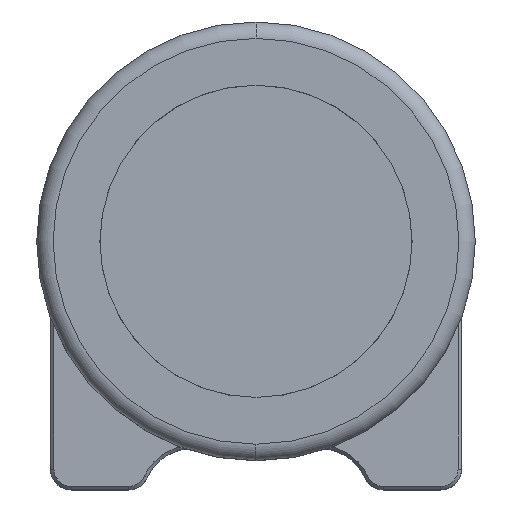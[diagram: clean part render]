
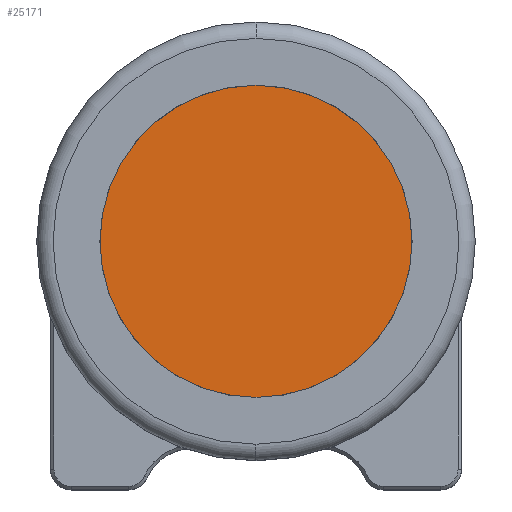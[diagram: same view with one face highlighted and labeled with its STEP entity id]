
A CAD part, top view. The second image highlights one B-rep face of the part: STEP entity #25171.
In plain terms, the highlighted planar face has unit normal (0, 0, 1).
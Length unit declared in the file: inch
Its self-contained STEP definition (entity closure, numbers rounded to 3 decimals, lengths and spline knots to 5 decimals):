
#645 = FACE_OUTER_BOUND ( 'NONE', #55476, .T. ) ;
#5267 = AXIS2_PLACEMENT_3D ( 'NONE', #32379, #27192, #8839 ) ;
#8839 = DIRECTION ( 'NONE',  ( 1., 0., 0. ) ) ;
#9665 = EDGE_CURVE ( 'NONE', #55965, #43356, #67660, .T. ) ;
#11454 = CARTESIAN_POINT ( 'NONE',  ( 0., 0., 0.09375 ) ) ;
#18800 = CARTESIAN_POINT ( 'NONE',  ( 1.14, 0., 0.09375 ) ) ;
#19862 = CIRCLE ( 'NONE', #40247, 1.14 ) ;
#21695 = CARTESIAN_POINT ( 'NONE',  ( -1.14, 0., 0.09375 ) ) ;
#22368 = CARTESIAN_POINT ( 'NONE',  ( 0., 0., 0.09375 ) ) ;
#25171 = ADVANCED_FACE ( 'NONE', ( #645 ), #66496, .T. ) ;
#27192 = DIRECTION ( 'NONE',  ( 0., 0., 1. ) ) ;
#28752 = DIRECTION ( 'NONE',  ( 0., 0., 1. ) ) ;
#29798 = DIRECTION ( 'NONE',  ( 0., 0., 1. ) ) ;
#32379 = CARTESIAN_POINT ( 'NONE',  ( 0., 0., 0.09375 ) ) ;
#35502 = ORIENTED_EDGE ( 'NONE', *, *, #9665, .T. ) ;
#38496 = AXIS2_PLACEMENT_3D ( 'NONE', #11454, #29798, #72865 ) ;
#40247 = AXIS2_PLACEMENT_3D ( 'NONE', #22368, #28752, #65058 ) ;
#43356 = VERTEX_POINT ( 'NONE', #18800 ) ;
#55476 = EDGE_LOOP ( 'NONE', ( #35502, #77448 ) ) ;
#55965 = VERTEX_POINT ( 'NONE', #21695 ) ;
#60875 = EDGE_CURVE ( 'NONE', #43356, #55965, #19862, .T. ) ;
#65058 = DIRECTION ( 'NONE',  ( 1., 0., 0. ) ) ;
#66496 = PLANE ( 'NONE',  #38496 ) ;
#67660 = CIRCLE ( 'NONE', #5267, 1.14 ) ;
#72865 = DIRECTION ( 'NONE',  ( 1., 0., 0. ) ) ;
#77448 = ORIENTED_EDGE ( 'NONE', *, *, #60875, .T. ) ;
